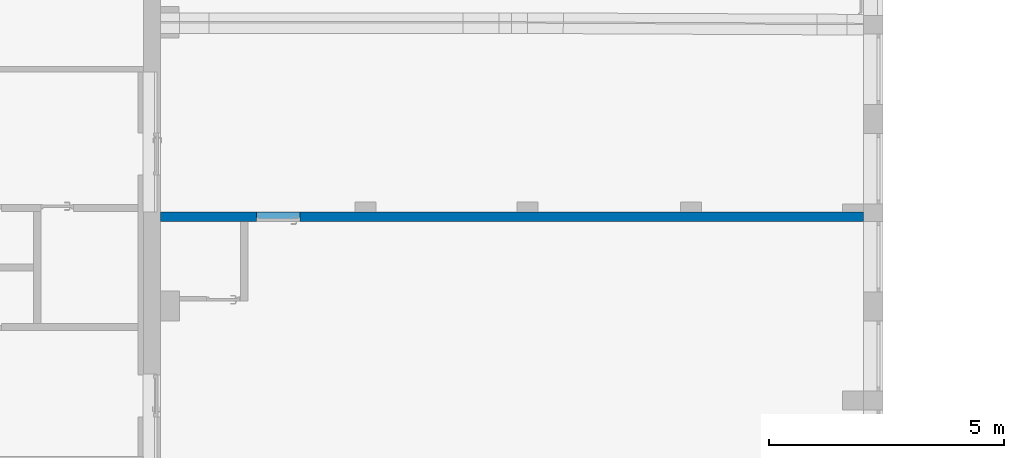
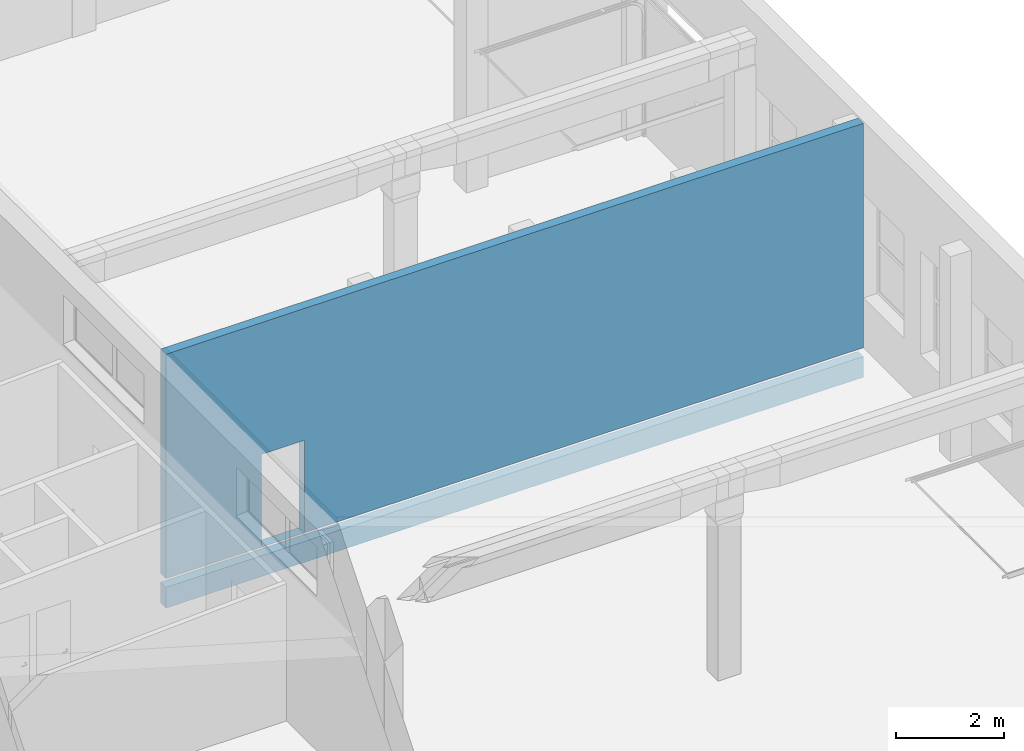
# One storey, part 153 of 301: 1 wall, 1 opening.
"""IFC2X3 building model written with IfcOpenShell, lengths in millimetres."""

from ifc_helpers import new_model, entity, si_unit, converted_unit, derived_unit, money_unit, direction, frame, origin_with_axes, place, context, subcontext, project, spatial, faceted_brep, material, type_object, element, save


model = new_model("IFC2X3")

# Units and contexts
model_context = context("Model", 3, precision=0.01, world=origin_with_axes(), true_north=direction((0.0, 1.0)))
body_context = subcontext(model_context, "Body", "Model", "MODEL_VIEW")
ifc_project = project(units=[si_unit("LENGTHUNIT", "METRE", prefix="MILLI"), si_unit("AREAUNIT", "SQUARE_METRE"), si_unit("VOLUMEUNIT", "CUBIC_METRE"), converted_unit("PLANEANGLEUNIT", "DEGREE", entity("IfcPlaneAngleMeasure", 0.0174532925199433), si_unit("PLANEANGLEUNIT", "RADIAN"), dimensions=[0, 0, 0, 0, 0, 0, 0]), money_unit("EUR"), converted_unit("TIMEUNIT", "Year", entity("IfcTimeMeasure", 31557600.0), si_unit("TIMEUNIT", "SECOND"), dimensions=[0, 0, 1, 0, 0, 0, 0]), si_unit("MASSUNIT", "GRAM", prefix="KILO"), si_unit("THERMODYNAMICTEMPERATUREUNIT", "DEGREE_CELSIUS"), si_unit("LUMINOUSINTENSITYUNIT", "LUMEN"), si_unit("ENERGYUNIT", "JOULE", prefix="MEGA"), derived_unit("THERMALCONDUCTANCEUNIT", [(si_unit("POWERUNIT", "WATT"), 1), (si_unit("LENGTHUNIT", "METRE"), -1), (si_unit("THERMODYNAMICTEMPERATUREUNIT", "KELVIN"), -1)]), derived_unit("SPECIFICHEATCAPACITYUNIT", [(si_unit("ENERGYUNIT", "JOULE"), 1), (si_unit("MASSUNIT", "GRAM", prefix="KILO"), -1), (si_unit("THERMODYNAMICTEMPERATUREUNIT", "KELVIN"), -1)]), derived_unit("MASSDENSITYUNIT", [(si_unit("MASSUNIT", "GRAM", prefix="KILO"), 1), (si_unit("VOLUMEUNIT", "CUBIC_METRE"), -1)])], contexts=[model_context])

# Site, building, storey
site_placement = place(None, frame((0.0, 0.0, 8650.0), z_axis=(0.0, 0.0, 1.0), x_axis=(1.0, 0.0, 0.0)))
site = spatial("IfcSite", under=ifc_project, at=site_placement, Name="43301:001:0844", CompositionType="ELEMENT")
building_placement = place(site_placement, origin_with_axes())
building = spatial("IfcBuilding", under=site, at=building_placement, Name="Kuressaare Ametikooli tuulikute mehaanikute õppekorpus", CompositionType="ELEMENT")
storey_placement = place(building_placement, origin_with_axes())
storey = spatial("IfcBuildingStorey", under=building, at=storey_placement, Name="1.korrus", CompositionType="ELEMENT", Elevation=0.0)

# Wall, opening
ifc_material = material(Name="GENEERILINE - KONSTRUKTRIOON")
wall_type = type_object("IfcWallType", Name="GENEERILINE - KONSTRUKTRIOON 200", PredefinedType="NOTDEFINED")
wall_placement = place(storey_placement, frame((103227.5122070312, 94403.96082227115, -1000.0), z_axis=(0.0, 0.0, 1.0), x_axis=(-1.0, 0.0, 0.0)))
wall = element("IfcWall", 1, at=wall_placement, inside=storey, type_object=wall_type, material=ifc_material, Name="SS-XX", context=body_context, shape_type="Brep", body=[
    faceted_brep([(14968.75576019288, 0.0, 0.0), (14968.75576019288, 0.0, 469.9486296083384), (0.0, 0.0, 469.9486296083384), (0.0, 0.0, 0.0), (14968.75576019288, 200.0000000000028, 0.0), (14968.75576019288, 200.0000000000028, 469.9486296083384), (0.0, 200.0000000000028, 469.9486296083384), (0.0, 200.0000000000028, 0.0)], [[[0, 1, 2, 3]], [[4, 5, 1, 0]], [[5, 6, 2, 1]], [[3, 2, 6, 7]], [[3, 7, 4, 0]], [[7, 6, 5, 4]]]),
    faceted_brep([(0.0, 200.0000000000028, 5760.0), (14968.75576019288, 200.0000000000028, 5760.0), (14968.75576019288, 200.0000000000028, 669.9486296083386), (0.0, 200.0000000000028, 669.9486296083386), (12923.12193937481, 200.0000000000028, 669.9999999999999), (12923.12193937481, 200.0000000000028, 2770.0), (11998.1219393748, 200.0000000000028, 2770.0), (11998.1219393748, 200.0000000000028, 669.9999999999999), (0.0, 0.0, 5760.0), (14968.75576019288, 0.0, 5760.0), (14968.75576019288, 0.0, 669.9486296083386), (0.0, 0.0, 669.9486296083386), (12923.12193937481, 0.0, 669.9999999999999), (12923.12193937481, 0.0, 2770.0), (11998.1219393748, 0.0, 2770.0), (11998.1219393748, 0.0, 669.9999999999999)], [[[0, 1, 2, 3], [4, 5, 6, 7]], [[0, 8, 9, 1]], [[1, 9, 10, 2]], [[10, 11, 3, 2]], [[8, 0, 3, 11]], [[12, 13, 5, 4]], [[13, 14, 6, 5]], [[14, 15, 7, 6]], [[15, 12, 4, 7]], [[9, 8, 11, 10], [12, 15, 14, 13]]]),
])
opening_placement = place(wall_placement, frame((12460.6219393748, 0.0, 669.9999999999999), z_axis=(0.0, 0.0, 1.0), x_axis=(1.0, 0.0, 0.0)))
element("IfcOpeningElement", 2, at=opening_placement, cuts=wall, Name="SU-XX", context=body_context, shape_type="Brep", body=[
    faceted_brep([(-462.5000000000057, -1.000000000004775, 2100.0), (-462.5000000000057, -1.000000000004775, 0.0), (462.5000000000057, -1.000000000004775, 0.0), (462.5000000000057, -1.000000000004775, 2100.0), (-462.5000000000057, 201.0000000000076, 2100.0), (-462.5000000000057, 201.0000000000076, 0.0), (462.5000000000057, 201.0000000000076, 0.0), (462.5000000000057, 201.0000000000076, 2100.0)], [[[0, 1, 2, 3]], [[4, 5, 1, 0]], [[5, 6, 2, 1]], [[6, 7, 3, 2]], [[7, 4, 0, 3]], [[6, 5, 4, 7]]]),
])

save(model, "model.ifc")
